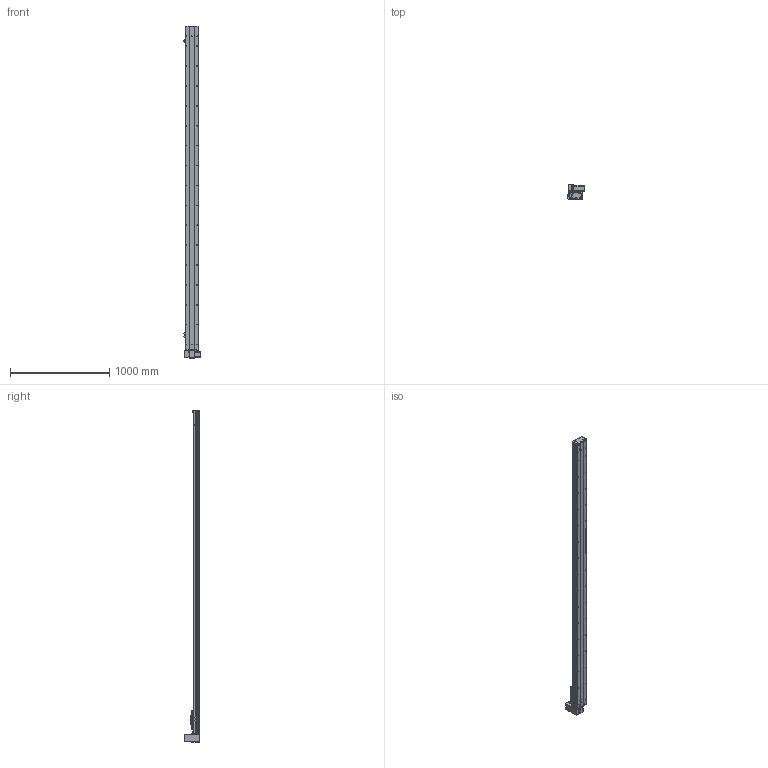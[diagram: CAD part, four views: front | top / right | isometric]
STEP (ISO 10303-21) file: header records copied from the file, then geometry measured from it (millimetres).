
FILE_DESCRIPTION (( 'STEP AP203' ), '1' );
FILE_NAME ('Y135CB-D90-S2950-UR-P400W.STEP', '2020-02-18T06:48:48', ( '微软用户' ), ( '微软中国' ), 'SwSTEP 2.0', 'SolidWorks 2017', '' );
FILE_SCHEMA (( 'CONFIG_CONTROL_DESIGN' ));
Length unit declared in the file: millimetre
Products named in the file (18): Y10B-耜蚾蟀諉啣----; 5CB --掛极耜裔啣-; 00B-俋欶BM--; C-詩湍揤踡え-陔; Y135CB-耜裔; Y135CB-D90-S2950-UR-P400W; 135CB--詩湍-CE; 135CB---遴掛极.-; Y100-135俋离換覜ん--; 35CB---喘謫眊楊擘啣; Y135C-陔俋离換覜結え-; 0B-埴倛裔啣; 5C--俋欶; 0B-源倛裔啣; C-雄赽釱--; 0B-萇儂楊擘啣; Y10B--々湍喘謫眊--666; san松下电机400不带刹车----
Assembly tree (21 placements, depth 2):
  Y135CB-D90-S2950-UR-P400W
    Y135CB-耜裔
    135CB---遴掛极.-
    35CB---喘謫眊楊擘啣
    0B-埴倛裔啣
    0B-源倛裔啣
    0B-萇儂楊擘啣
    san松下电机400不带刹车----
    5CB --掛极耜裔啣-  x2
    C-詩湍揤踡え-陔  x2
    135CB--詩湍-CE
    Y100-135俋离換覜ん--  x3
    Y135C-陔俋离換覜結え-
    5C--俋欶
    C-雄赽釱--
    Y10B--々湍喘謫眊--666
    Y10B-耜蚾蟀諉啣----
    00B-俋欶BM--
Bounding box: 167.5 x 158.7 x 3338 mm (x, y, z)
Volume: 9450372.7 mm3; surface area: 3749164.3 mm2
Topology: 21 solids, 21 shells, 985 faces, 2707 edges, 1794 vertices
Faces by surface type: cylinder 513, plane 456, cone 16
Entity records: 31369 total; most frequent: CARTESIAN_POINT 5252, DIRECTION 5215, ORIENTED_EDGE 4890, EDGE_CURVE 2445, AXIS2_PLACEMENT_3D 1917, VERTEX_POINT 1622, VECTOR 1381, LINE 1381
